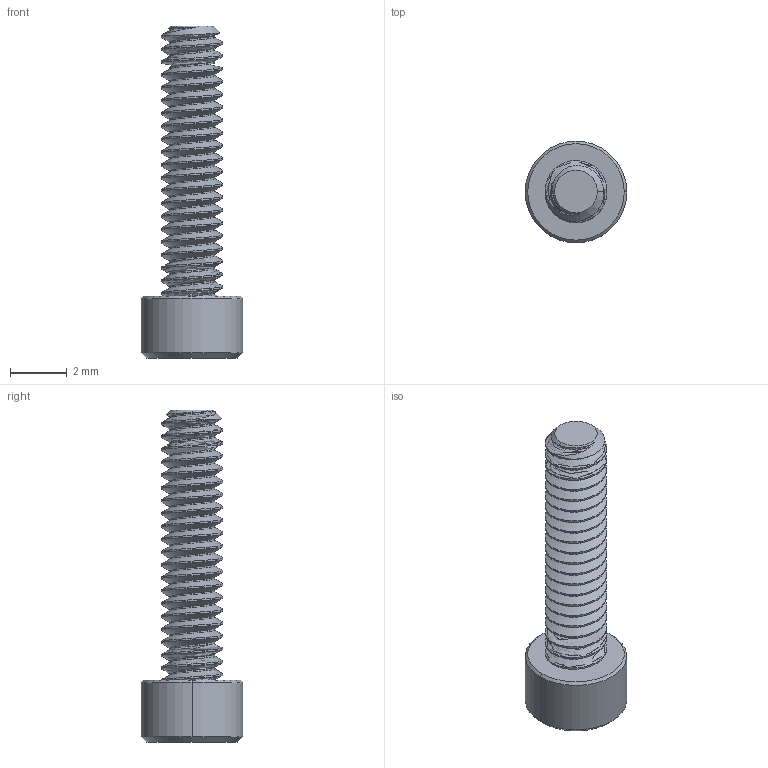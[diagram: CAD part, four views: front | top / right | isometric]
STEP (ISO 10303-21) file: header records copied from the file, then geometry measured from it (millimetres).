
FILE_DESCRIPTION (( 'STEP AP214' ), '1' );
FILE_NAME ('LHWX0503100A A2.step', '2023-03-15T19:26:09', ( '' ), ( '' ), 'SwSTEP 2.0', 'SolidWorks 2021', '' );
FILE_SCHEMA (( 'AUTOMOTIVE_DESIGN' ));
Length unit declared in the file: inch
Products named in the file (1): LHWX0503100A A2
Bounding box: 3.58 x 3.58 x 11.71 mm (x, y, z)
Volume: 43.6 mm3; surface area: 150.2 mm2
Topology: 1 solids, 1 shells, 112 faces, 307 edges, 199 vertices
Faces by surface type: cylinder 87, cone 13, plane 10, bspline 2
Entity records: 5510 total; most frequent: CARTESIAN_POINT 3154, ORIENTED_EDGE 614, DIRECTION 368, EDGE_CURVE 307, VERTEX_POINT 199, AXIS2_PLACEMENT_3D 132, EDGE_LOOP 114, ADVANCED_FACE 112
